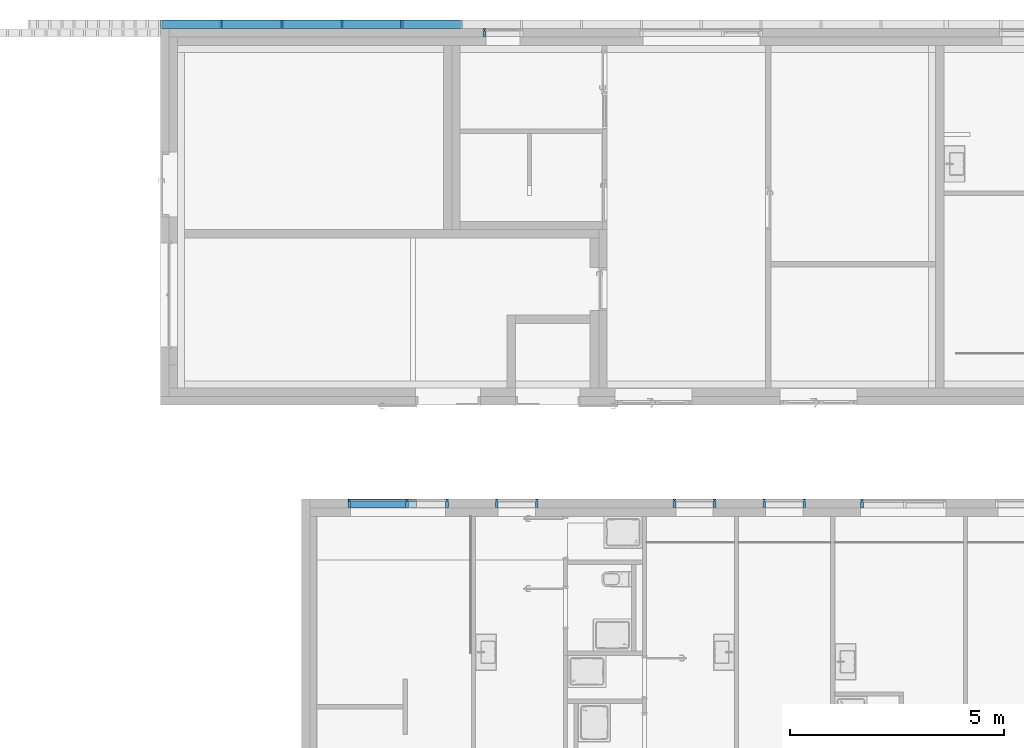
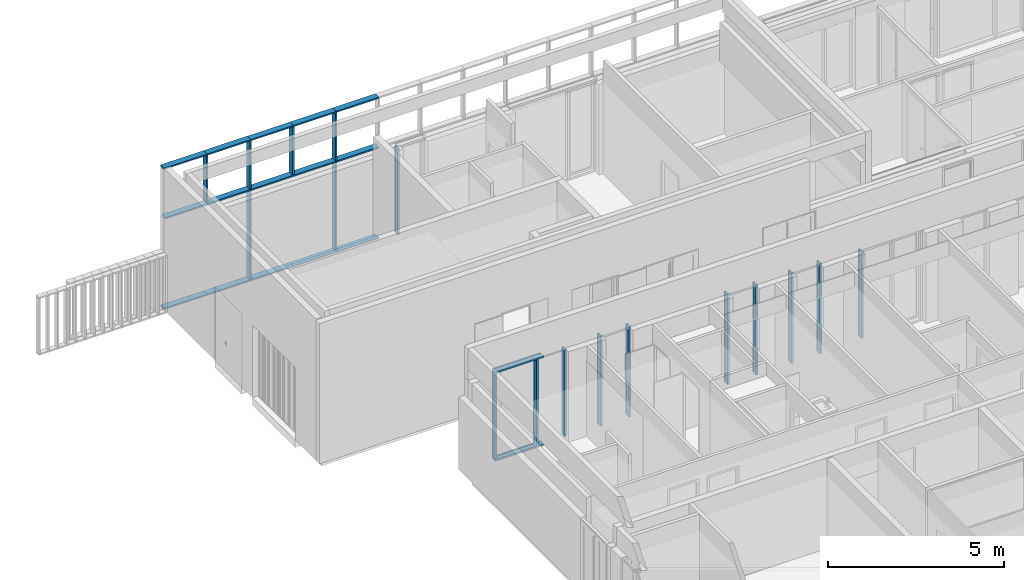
# One storey, part 12 of 240: 34 members, 7 elements without a shape of their own.
"""IFC2X3 building model written with IfcOpenShell, lengths in centimetres."""

from ifc_helpers import new_model, entity, si_unit, converted_unit, derived_unit, direction, frame, origin, origin_2d_with_axis, place, context, subcontext, project, spatial, polyline, rectangle, outline, extrude, source, transform, mapped, material, type_object, type_shapes, element, aggregate, save


model = new_model("IFC2X3")

# Units and contexts
model_context = context("Model", 3, precision=0.001, world=origin(), true_north=direction((6.12303176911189e-17, 1.0)))
body_context = subcontext(model_context, "Body", "Model", "MODEL_VIEW")
ifc_project = project(units=[si_unit("LENGTHUNIT", "METRE", prefix="CENTI"), si_unit("AREAUNIT", "SQUARE_METRE"), si_unit("VOLUMEUNIT", "CUBIC_METRE"), converted_unit("PLANEANGLEUNIT", "DEGREE", entity("IfcRatioMeasure", 0.0174532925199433), si_unit("PLANEANGLEUNIT", "RADIAN"), dimensions=[0, 0, 0, 0, 0, 0, 0]), si_unit("MASSUNIT", "GRAM", prefix="KILO"), derived_unit("MASSDENSITYUNIT", [(si_unit("MASSUNIT", "GRAM", prefix="KILO"), 1), (si_unit("LENGTHUNIT", "METRE"), -3)]), si_unit("TIMEUNIT", "SECOND"), si_unit("FREQUENCYUNIT", "HERTZ"), si_unit("THERMODYNAMICTEMPERATUREUNIT", "DEGREE_CELSIUS"), derived_unit("THERMALTRANSMITTANCEUNIT", [(si_unit("MASSUNIT", "GRAM", prefix="KILO"), 1), (si_unit("THERMODYNAMICTEMPERATUREUNIT", "KELVIN"), -1), (si_unit("TIMEUNIT", "SECOND"), -3)]), derived_unit("VOLUMETRICFLOWRATEUNIT", [(si_unit("LENGTHUNIT", "METRE"), 3), (si_unit("TIMEUNIT", "SECOND"), -1)]), si_unit("ELECTRICCURRENTUNIT", "AMPERE"), si_unit("ELECTRICVOLTAGEUNIT", "VOLT"), si_unit("POWERUNIT", "WATT"), si_unit("FORCEUNIT", "NEWTON", prefix="KILO"), si_unit("ILLUMINANCEUNIT", "LUX"), si_unit("LUMINOUSFLUXUNIT", "LUMEN"), si_unit("LUMINOUSINTENSITYUNIT", "CANDELA"), derived_unit("USERDEFINED", [(si_unit("MASSUNIT", "GRAM", prefix="KILO"), -1), (si_unit("LENGTHUNIT", "METRE"), -2), (si_unit("TIMEUNIT", "SECOND"), 3), (si_unit("LUMINOUSFLUXUNIT", "LUMEN"), 1)]), derived_unit("LINEARVELOCITYUNIT", [(si_unit("LENGTHUNIT", "METRE"), 1), (si_unit("TIMEUNIT", "SECOND"), -1)]), si_unit("PRESSUREUNIT", "PASCAL"), derived_unit("USERDEFINED", [(si_unit("LENGTHUNIT", "METRE"), -2), (si_unit("MASSUNIT", "GRAM", prefix="KILO"), 1), (si_unit("TIMEUNIT", "SECOND"), -2)])], contexts=[model_context])

# Site, building, storey
site_placement = place(None, frame((-2781.94577612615, 7442.24238424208, 0.0)))
site = spatial("IfcSite", under=ifc_project, at=site_placement, Name="Default", CompositionType="ELEMENT")
building_placement = place(site_placement, origin())
building = spatial("IfcBuilding", under=site, at=building_placement, CompositionType="ELEMENT")
storey_placement = place(building_placement, origin())
storey = spatial("IfcBuildingStorey", under=building, at=storey_placement, Name="N00 - COO", CompositionType="ELEMENT", Elevation=0.0)

# Curtain wall, member
curtain_wall_type_1 = type_object("IfcCurtainWallType", Name="Mur-rideau:07 - mur rideau trame 160cm", PredefinedType="NOTDEFINED")
curtain_wall_1_placement = place(building_placement, origin())
curtain_wall_1 = element("IfcCurtainWall", 1, at=curtain_wall_1_placement, inside=storey, type_object=curtain_wall_type_1, Name="Mur-rideau:07 - mur rideau trame 160cm", ObjectType="Mur-rideau:07 - mur rideau trame 160cm")
ifc_material = material(Name="Aluminium")
member_type_1 = type_object("IfcMemberType", Name="150 x 25mm Détails", PredefinedType="MEMBER")
shared_shape_1 = source(origin(), body_context, "Body", "SweptSolid", [
    extrude(outline(polyline([(-13.3333333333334, -3.24999999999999), (0.166666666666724, -3.24999999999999), (0.166666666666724, -0.868749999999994), (3.66666666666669, -0.868749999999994), (3.66666666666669, -3.25), (5.6666666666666, -3.25), (5.6666666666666, 3.24999999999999), (3.66666666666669, 3.24999999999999), (3.66666666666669, 0.86874999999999), (0.166666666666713, 0.86874999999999), (0.166666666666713, 3.25000000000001), (-13.3333333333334, 3.25000000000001), (-13.3333333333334, -3.24999999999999)])), frame((-3.24999999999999, 1.96666666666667, -299.5), z_axis=(0.0, 0.0, 1.0), x_axis=(0.0, -1.0, 0.0)), (0.0, 0.0, 1.0), 299.5),
])
type_shapes(member_type_1, [shared_shape_1])
member_1_placement = place(building_placement, frame((-10564.4998776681, -1073.69999990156, 306.0), z_axis=(0.0, 0.0, 1.0), x_axis=(-1.0, 0.0, 0.0)))
member_1 = element("IfcMember", 2, at=member_1_placement, type_object=member_type_1, material=ifc_material, Name="Meneau rectangulaire:150 x 25mm Détails", ObjectType="Meneau rectangulaire:150 x 25mm Détails", context=body_context, shape_type="MappedRepresentation", body=[
    mapped(shared_shape_1, transform((0.0, 0.0, 0.0), scale=1.0)),
])

curtain_wall_type_2 = type_object("IfcCurtainWallType", Name="Mur-rideau:07 - mur rideau trame 100cm", PredefinedType="NOTDEFINED")
curtain_wall_2_placement = place(building_placement, origin())
curtain_wall_2 = element("IfcCurtainWall", 3, at=curtain_wall_2_placement, inside=storey, type_object=curtain_wall_type_2, Name="Mur-rideau:07 - mur rideau trame 100cm", ObjectType="Mur-rideau:07 - mur rideau trame 100cm")
member_2_placement = place(building_placement, frame((-9594.49987766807, -1074.89999990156, 306.0), z_axis=(0.0, 0.0, 1.0), x_axis=(-1.0, 0.0, 0.0)))
member_2 = element("IfcMember", 4, at=member_2_placement, type_object=member_type_1, material=ifc_material, Name="Meneau rectangulaire:150 x 25mm Détails", ObjectType="Meneau rectangulaire:150 x 25mm Détails", context=body_context, shape_type="MappedRepresentation", body=[
    mapped(shared_shape_1, transform((0.0, 0.0, 0.0), scale=1.0)),
])
aggregate(curtain_wall_2, [member_2])

# Member
member_type_2 = type_object("IfcMemberType", Name="150 x 25mm Détails", PredefinedType="MEMBER")
shared_shape_2 = source(origin(), body_context, "Body", "SweptSolid", [
    extrude(outline(polyline([(-13.3333333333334, -3.25000000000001), (0.166666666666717, -3.25000000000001), (0.166666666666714, -0.86874999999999), (3.66666666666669, -0.86874999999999), (3.66666666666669, -3.24999999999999), (5.6666666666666, -3.24999999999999), (5.6666666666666, 3.25), (3.66666666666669, 3.25), (3.66666666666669, 0.868749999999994), (0.166666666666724, 0.868749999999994), (0.166666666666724, 3.25000000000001), (-13.3333333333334, 3.24999999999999), (-13.3333333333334, -3.25000000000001)])), frame((-3.24999999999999, 1.96666666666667, -299.5), z_axis=(0.0, 0.0, 1.0), x_axis=(0.0, -1.0, 0.0)), (0.0, 0.0, 1.0), 299.5),
])
type_shapes(member_type_2, [shared_shape_2])
member_3_placement = place(building_placement, frame((-10651.4998776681, -1073.69999990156, 6.49999999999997), z_axis=(0.0, 0.0, -1.0), x_axis=(1.0, 0.0, 0.0)))
member_3 = element("IfcMember", 5, at=member_3_placement, type_object=member_type_2, material=ifc_material, Name="Meneau rectangulaire:150 x 25mm Détails", ObjectType="Meneau rectangulaire:150 x 25mm Détails", context=body_context, shape_type="MappedRepresentation", body=[
    mapped(shared_shape_2, transform((0.0, 0.0, 0.0), scale=1.0)),
])

# Curtain wall, member
curtain_wall_type_3 = type_object("IfcCurtainWallType", Name="Mur-rideau:07 - mur rideau trame 90 cm", PredefinedType="NOTDEFINED")
curtain_wall_3_placement = place(storey_placement, origin())
curtain_wall_3 = element("IfcCurtainWall", 6, at=curtain_wall_3_placement, inside=storey, type_object=curtain_wall_type_3, Name="Mur-rideau:07 - mur rideau trame 90 cm", ObjectType="Mur-rideau:07 - mur rideau trame 90 cm")
member_type_3 = type_object("IfcMemberType", Name="150 x 25mm Détails", PredefinedType="MEMBER")
shared_shape_3 = source(origin(), body_context, "Body", "SweptSolid", [
    extrude(outline(polyline([(-13.3333333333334, -3.24999999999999), (0.166666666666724, -3.24999999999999), (0.166666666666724, -0.868749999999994), (3.66666666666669, -0.868749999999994), (3.66666666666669, -3.25), (5.6666666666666, -3.25), (5.6666666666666, 3.24999999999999), (3.66666666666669, 3.24999999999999), (3.66666666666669, 0.86874999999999), (0.166666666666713, 0.86874999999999), (0.166666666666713, 3.25000000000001), (-13.3333333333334, 3.25000000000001), (-13.3333333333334, -3.24999999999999)])), frame((-3.24999999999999, 1.96666666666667, -300.0), z_axis=(0.0, 0.0, 1.0), x_axis=(0.0, -1.0, 0.0)), (0.0, 0.0, 1.0), 300.000000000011),
])
type_shapes(member_type_3, [shared_shape_3])
member_4_placement = place(storey_placement, frame((-10476.9998776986, 26.2000000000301, 306.5), z_axis=(0.0, 0.0, 1.0), x_axis=(-1.0, 0.0, 0.0)))
member_4 = element("IfcMember", 7, at=member_4_placement, type_object=member_type_3, material=ifc_material, Name="Meneau rectangulaire:150 x 25mm Détails", ObjectType="Meneau rectangulaire:150 x 25mm Détails", context=body_context, shape_type="MappedRepresentation", body=[
    mapped(shared_shape_3, transform((0.0, 0.0, 0.0), scale=1.0)),
])
aggregate(curtain_wall_3, [member_4])

# Curtain wall, members
curtain_wall_type_4 = type_object("IfcCurtainWallType", Name="Mur-rideau:Epines - 200x50mm", PredefinedType="NOTDEFINED")
curtain_wall_4_placement = place(building_placement, origin())
curtain_wall_4 = element("IfcCurtainWall", 8, at=curtain_wall_4_placement, inside=storey, type_object=curtain_wall_type_4, Name="Mur-rideau:Epines - 200x50mm", ObjectType="Mur-rideau:Epines - 200x50mm")
member_type_4 = type_object("IfcMemberType", Name="200x50 mm", PredefinedType="MEMBER")
shared_shape_4 = source(origin(), body_context, "Body", "SweptSolid", [
    extrude(rectangle(XDim=20.0, YDim=5.0, at=origin_2d_with_axis()), frame((-2.5, 0.0, -141.830909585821), z_axis=(0.0, 0.0, 1.0), x_axis=(0.0, -1.0, 0.0)), (0.0, 0.0, 1.0), 141.830909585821),
])
type_shapes(member_type_4, [shared_shape_4])
member_5_placement = place(building_placement, frame((-11230.6616968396, 40.0, 0.0), z_axis=(-1.0, 0.0, 0.0), x_axis=(0.0, 0.0, -1.0)))
member_5 = element("IfcMember", 9, at=member_5_placement, type_object=member_type_4, material=ifc_material, Name="Meneau rectangulaire:200x50 mm", ObjectType="Meneau rectangulaire:200x50 mm", context=body_context, shape_type="MappedRepresentation", body=[
    mapped(shared_shape_4, transform((0.0, 0.0, 0.0), scale=1.0)),
])
member_type_5 = type_object("IfcMemberType", Name="200x50 mm", PredefinedType="MEMBER")
shared_shape_5 = source(origin(), body_context, "Body", "SweptSolid", [
    extrude(rectangle(XDim=20.0, YDim=5.0, at=origin_2d_with_axis()), frame((0.0, 0.0, -136.830909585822), z_axis=(0.0, 0.0, 1.0), x_axis=(0.0, -1.0, 0.0)), (0.0, 0.0, 1.0), 136.830909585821),
])
type_shapes(member_type_5, [shared_shape_5])
member_6_placement = place(building_placement, frame((-11088.8307872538, 40.0, 315.0), z_axis=(1.0, 0.0, 0.0), x_axis=(0.0, 0.0, 1.0)))
member_6 = element("IfcMember", 10, at=member_6_placement, type_object=member_type_5, material=ifc_material, Name="Meneau rectangulaire:200x50 mm", ObjectType="Meneau rectangulaire:200x50 mm", context=body_context, shape_type="MappedRepresentation", body=[
    mapped(shared_shape_5, transform((0.0, 0.0, 0.0), scale=1.0)),
])
member_type_6 = type_object("IfcMemberType", Name="200x50 mm", PredefinedType="MEMBER")
shared_shape_6 = source(origin(), body_context, "Body", "SweptSolid", [
    extrude(rectangle(XDim=20.0, YDim=5.0, at=origin_2d_with_axis()), frame((0.0, 0.0, -307.5), z_axis=(0.0, 0.0, 1.0), x_axis=(0.0, -1.0, 0.0)), (0.0, 0.0, 1.0), 307.5),
])
type_shapes(member_type_6, [shared_shape_6])
member_7_placement = place(building_placement, frame((-10666.9998776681, 40.0, 5.0), z_axis=(0.0, 0.0, -1.0), x_axis=(1.0, 0.0, 0.0)))
member_7 = element("IfcMember", 11, at=member_7_placement, type_object=member_type_6, material=ifc_material, Name="Meneau rectangulaire:200x50 mm", ObjectType="Meneau rectangulaire:200x50 mm", context=body_context, shape_type="MappedRepresentation", body=[
    mapped(shared_shape_6, transform((0.0, 0.0, 0.0), scale=1.0)),
])
member_8_placement = place(building_placement, frame((-10946.9998776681, 40.0, 5.0), z_axis=(0.0, 0.0, -1.0), x_axis=(1.0, 0.0, 0.0)))
member_8 = element("IfcMember", 12, at=member_8_placement, type_object=member_type_6, material=ifc_material, Name="Meneau rectangulaire:200x50 mm", ObjectType="Meneau rectangulaire:200x50 mm", context=body_context, shape_type="MappedRepresentation", body=[
    mapped(shared_shape_6, transform((0.0, 0.0, 0.0), scale=1.0)),
])
member_type_7 = type_object("IfcMemberType", Name="200x50 mm", PredefinedType="MEMBER")
shared_shape_7 = source(origin(), body_context, "Body", "SweptSolid", [
    extrude(rectangle(XDim=20.0, YDim=5.0, at=origin_2d_with_axis()), frame((-2.5, 0.0, -140.0), z_axis=(0.0, 0.0, 1.0), x_axis=(0.0, -1.0, 0.0)), (0.0, 0.0, 1.0), 139.999999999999),
])
type_shapes(member_type_7, [shared_shape_7])
member_9_placement = place(building_placement, frame((-10666.9998776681, 40.0, 0.0), z_axis=(-1.0, 0.0, 0.0), x_axis=(0.0, 0.0, -1.0)))
member_9 = element("IfcMember", 13, at=member_9_placement, type_object=member_type_7, material=ifc_material, Name="Meneau rectangulaire:200x50 mm", ObjectType="Meneau rectangulaire:200x50 mm", context=body_context, shape_type="MappedRepresentation", body=[
    mapped(shared_shape_7, transform((0.0, 0.0, 0.0), scale=1.0)),
])
member_10_placement = place(building_placement, frame((-10946.9998776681, 40.0, 0.0), z_axis=(-1.0, 0.0, 0.0), x_axis=(0.0, 0.0, -1.0)))
member_10 = element("IfcMember", 14, at=member_10_placement, type_object=member_type_7, material=ifc_material, Name="Meneau rectangulaire:200x50 mm", ObjectType="Meneau rectangulaire:200x50 mm", context=body_context, shape_type="MappedRepresentation", body=[
    mapped(shared_shape_7, transform((0.0, 0.0, 0.0), scale=1.0)),
])
member_type_8 = type_object("IfcMemberType", Name="200x50 mm", PredefinedType="MEMBER")
shared_shape_8 = source(origin(), body_context, "Body", "SweptSolid", [
    extrude(rectangle(XDim=20.0, YDim=5.0, at=origin_2d_with_axis()), frame((0.0, 0.0, -140.0), z_axis=(0.0, 0.0, 1.0), x_axis=(0.0, -1.0, 0.0)), (0.0, 0.0, 1.0), 139.999999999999),
])
type_shapes(member_type_8, [shared_shape_8])
member_11_placement = place(building_placement, frame((-10526.9998776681, 40.0, 315.0), z_axis=(1.0, 0.0, 0.0), x_axis=(0.0, 0.0, 1.0)))
member_11 = element("IfcMember", 15, at=member_11_placement, type_object=member_type_8, material=ifc_material, Name="Meneau rectangulaire:200x50 mm", ObjectType="Meneau rectangulaire:200x50 mm", context=body_context, shape_type="MappedRepresentation", body=[
    mapped(shared_shape_8, transform((0.0, 0.0, 0.0), scale=1.0)),
])
member_12_placement = place(building_placement, frame((-10806.9998776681, 40.0, 315.0), z_axis=(1.0, 0.0, 0.0), x_axis=(0.0, 0.0, 1.0)))
member_12 = element("IfcMember", 16, at=member_12_placement, type_object=member_type_8, material=ifc_material, Name="Meneau rectangulaire:200x50 mm", ObjectType="Meneau rectangulaire:200x50 mm", context=body_context, shape_type="MappedRepresentation", body=[
    mapped(shared_shape_8, transform((0.0, 0.0, 0.0), scale=1.0)),
])
member_13_placement = place(building_placement, frame((-10666.9998776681, 40.0, 315.0), z_axis=(1.0, 0.0, 0.0), x_axis=(0.0, 0.0, 1.0)))
member_13 = element("IfcMember", 17, at=member_13_placement, type_object=member_type_8, material=ifc_material, Name="Meneau rectangulaire:200x50 mm", ObjectType="Meneau rectangulaire:200x50 mm", context=body_context, shape_type="MappedRepresentation", body=[
    mapped(shared_shape_8, transform((0.0, 0.0, 0.0), scale=1.0)),
])
member_type_9 = type_object("IfcMemberType", Name="200x50 mm", PredefinedType="MEMBER")
shared_shape_9 = source(origin(), body_context, "Body", "SweptSolid", [
    extrude(rectangle(XDim=20.0, YDim=5.0, at=origin_2d_with_axis()), frame((-2.5, 0.0, -140.0), z_axis=(0.0, 0.0, 1.0), x_axis=(0.0, -1.0, 0.0)), (0.0, 0.0, 1.0), 140.000000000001),
])
type_shapes(member_type_9, [shared_shape_9])
member_14_placement = place(building_placement, frame((-10666.9998776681, 40.0, 490.0), z_axis=(1.0, 0.0, 0.0), x_axis=(0.0, 0.0, 1.0)))
member_14 = element("IfcMember", 18, at=member_14_placement, type_object=member_type_9, material=ifc_material, Name="Meneau rectangulaire:200x50 mm", ObjectType="Meneau rectangulaire:200x50 mm", context=body_context, shape_type="MappedRepresentation", body=[
    mapped(shared_shape_9, transform((0.0, 0.0, 0.0), scale=1.0)),
])
member_15_placement = place(building_placement, frame((-10526.9998776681, 40.0, 490.0), z_axis=(1.0, 0.0, 0.0), x_axis=(0.0, 0.0, 1.0)))
member_15 = element("IfcMember", 19, at=member_15_placement, type_object=member_type_9, material=ifc_material, Name="Meneau rectangulaire:200x50 mm", ObjectType="Meneau rectangulaire:200x50 mm", context=body_context, shape_type="MappedRepresentation", body=[
    mapped(shared_shape_9, transform((0.0, 0.0, 0.0), scale=1.0)),
])
member_16_placement = place(building_placement, frame((-10806.9998776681, 40.0, 490.0), z_axis=(1.0, 0.0, 0.0), x_axis=(0.0, 0.0, 1.0)))
member_16 = element("IfcMember", 20, at=member_16_placement, type_object=member_type_9, material=ifc_material, Name="Meneau rectangulaire:200x50 mm", ObjectType="Meneau rectangulaire:200x50 mm", context=body_context, shape_type="MappedRepresentation", body=[
    mapped(shared_shape_9, transform((0.0, 0.0, 0.0), scale=1.0)),
])
member_type_10 = type_object("IfcMemberType", Name="200x50 mm", PredefinedType="MEMBER")
shared_shape_10 = source(origin(), body_context, "Body", "SweptSolid", [
    extrude(rectangle(XDim=20.0, YDim=5.0, at=origin_2d_with_axis()), frame((-2.5, 0.0, -141.830909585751), z_axis=(0.0, 0.0, 1.0), x_axis=(0.0, -1.0, 0.0)), (0.0, 0.0, 1.0), 141.83090958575),
])
type_shapes(member_type_10, [shared_shape_10])
member_17_placement = place(building_placement, frame((-10946.9998776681, 40.0, 490.0), z_axis=(1.0, 0.0, 0.0), x_axis=(0.0, 0.0, 1.0)))
member_17 = element("IfcMember", 21, at=member_17_placement, type_object=member_type_10, material=ifc_material, Name="Meneau rectangulaire:200x50 mm", ObjectType="Meneau rectangulaire:200x50 mm", context=body_context, shape_type="MappedRepresentation", body=[
    mapped(shared_shape_10, transform((0.0, 0.0, 0.0), scale=1.0)),
])
member_type_11 = type_object("IfcMemberType", Name="200x50 mm", PredefinedType="MEMBER")
shared_shape_11 = source(origin(), body_context, "Body", "SweptSolid", [
    extrude(rectangle(XDim=20.0, YDim=5.0, at=origin_2d_with_axis()), frame((0.0, 0.0, -167.499999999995), z_axis=(0.0, 0.0, 1.0), x_axis=(0.0, -1.0, 0.0)), (0.0, 0.0, 1.0), 167.499999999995),
])
type_shapes(member_type_11, [shared_shape_11])
member_18_placement = place(building_placement, frame((-10666.9998776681, 40.0, 317.5), z_axis=(0.0, 0.0, -1.0), x_axis=(1.0, 0.0, 0.0)))
member_18 = element("IfcMember", 22, at=member_18_placement, type_object=member_type_11, material=ifc_material, Name="Meneau rectangulaire:200x50 mm", ObjectType="Meneau rectangulaire:200x50 mm", context=body_context, shape_type="MappedRepresentation", body=[
    mapped(shared_shape_11, transform((0.0, 0.0, 0.0), scale=1.0)),
])
member_19_placement = place(building_placement, frame((-10946.9998776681, 40.0, 317.5), z_axis=(0.0, 0.0, -1.0), x_axis=(1.0, 0.0, 0.0)))
member_19 = element("IfcMember", 23, at=member_19_placement, type_object=member_type_11, material=ifc_material, Name="Meneau rectangulaire:200x50 mm", ObjectType="Meneau rectangulaire:200x50 mm", context=body_context, shape_type="MappedRepresentation", body=[
    mapped(shared_shape_11, transform((0.0, 0.0, 0.0), scale=1.0)),
])
member_20_placement = place(building_placement, frame((-11088.8307872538, 40.0, 317.5), z_axis=(0.0, 0.0, -1.0), x_axis=(1.0, 0.0, 0.0)))
member_20 = element("IfcMember", 24, at=member_20_placement, type_object=member_type_11, material=ifc_material, Name="Meneau rectangulaire:200x50 mm", ObjectType="Meneau rectangulaire:200x50 mm", context=body_context, shape_type="MappedRepresentation", body=[
    mapped(shared_shape_11, transform((0.0, 0.0, 0.0), scale=1.0)),
])
member_21_placement = place(building_placement, frame((-10806.9998776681, 40.0, 317.5), z_axis=(0.0, 0.0, -1.0), x_axis=(1.0, 0.0, 0.0)))
member_21 = element("IfcMember", 25, at=member_21_placement, type_object=member_type_11, material=ifc_material, Name="Meneau rectangulaire:200x50 mm", ObjectType="Meneau rectangulaire:200x50 mm", context=body_context, shape_type="MappedRepresentation", body=[
    mapped(shared_shape_11, transform((0.0, 0.0, 0.0), scale=1.0)),
])
member_type_12 = type_object("IfcMemberType", Name="200x50 mm", PredefinedType="MEMBER")
shared_shape_12 = source(origin(), body_context, "Body", "SweptSolid", [
    extrude(rectangle(XDim=20.0, YDim=5.0, at=origin_2d_with_axis()), frame((-2.5, 0.0, -140.0), z_axis=(0.0, 0.0, 1.0), x_axis=(0.0, -1.0, 0.0)), (0.0, 0.0, 1.0), 140.000000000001),
])
type_shapes(member_type_12, [shared_shape_12])
member_22_placement = place(building_placement, frame((-10806.9998776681, 40.0, 0.0), z_axis=(-1.0, 0.0, 0.0), x_axis=(0.0, 0.0, -1.0)))
member_22 = element("IfcMember", 26, at=member_22_placement, type_object=member_type_12, material=ifc_material, Name="Meneau rectangulaire:200x50 mm", ObjectType="Meneau rectangulaire:200x50 mm", context=body_context, shape_type="MappedRepresentation", body=[
    mapped(shared_shape_12, transform((0.0, 0.0, 0.0), scale=1.0)),
])
member_type_13 = type_object("IfcMemberType", Name="200x50 mm", PredefinedType="MEMBER")
shared_shape_13 = source(origin(), body_context, "Body", "SweptSolid", [
    extrude(rectangle(XDim=20.0, YDim=5.0, at=origin_2d_with_axis()), frame((-2.5, 0.0, -141.830909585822), z_axis=(0.0, 0.0, 1.0), x_axis=(0.0, -1.0, 0.0)), (0.0, 0.0, 1.0), 141.830909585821),
])
type_shapes(member_type_13, [shared_shape_13])
member_23_placement = place(building_placement, frame((-11088.8307872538, 40.0, 490.0), z_axis=(1.0, 0.0, 0.0), x_axis=(0.0, 0.0, 1.0)))
member_23 = element("IfcMember", 27, at=member_23_placement, type_object=member_type_13, material=ifc_material, Name="Meneau rectangulaire:200x50 mm", ObjectType="Meneau rectangulaire:200x50 mm", context=body_context, shape_type="MappedRepresentation", body=[
    mapped(shared_shape_13, transform((0.0, 0.0, 0.0), scale=1.0)),
])
member_type_14 = type_object("IfcMemberType", Name="200x50 mm", PredefinedType="MEMBER")
shared_shape_14 = source(origin(), body_context, "Body", "SweptSolid", [
    extrude(rectangle(XDim=20.0, YDim=5.0, at=origin_2d_with_axis()), frame((-2.5, 0.0, -141.83090958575), z_axis=(0.0, 0.0, 1.0), x_axis=(0.0, -1.0, 0.0)), (0.0, 0.0, 1.0), 141.83090958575),
])
type_shapes(member_type_14, [shared_shape_14])
member_24_placement = place(building_placement, frame((-11088.8307872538, 40.0, 0.0), z_axis=(-1.0, 0.0, 0.0), x_axis=(0.0, 0.0, -1.0)))
member_24 = element("IfcMember", 28, at=member_24_placement, type_object=member_type_14, material=ifc_material, Name="Meneau rectangulaire:200x50 mm", ObjectType="Meneau rectangulaire:200x50 mm", context=body_context, shape_type="MappedRepresentation", body=[
    mapped(shared_shape_14, transform((0.0, 0.0, 0.0), scale=1.0)),
])
member_type_15 = type_object("IfcMemberType", Name="200x50 mm", PredefinedType="MEMBER")
shared_shape_15 = source(origin(), body_context, "Body", "SweptSolid", [
    extrude(rectangle(XDim=20.0, YDim=5.0, at=origin_2d_with_axis()), frame((0.0, 0.0, -141.830909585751), z_axis=(0.0, 0.0, 1.0), x_axis=(0.0, -1.0, 0.0)), (0.0, 0.0, 1.0), 141.83090958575),
])
type_shapes(member_type_15, [shared_shape_15])
member_25_placement = place(building_placement, frame((-10946.9998776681, 40.0, 315.0), z_axis=(1.0, 0.0, 0.0), x_axis=(0.0, 0.0, 1.0)))
member_25 = element("IfcMember", 29, at=member_25_placement, type_object=member_type_15, material=ifc_material, Name="Meneau rectangulaire:200x50 mm", ObjectType="Meneau rectangulaire:200x50 mm", context=body_context, shape_type="MappedRepresentation", body=[
    mapped(shared_shape_15, transform((0.0, 0.0, 0.0), scale=1.0)),
])
aggregate(curtain_wall_4, [member_5, member_6, member_9, member_11, member_14, member_10, member_12, member_17, member_7, member_8, member_18, member_19, member_15, member_16, member_22, member_13, member_23, member_24, member_25, member_20, member_21])

# Member
member_type_16 = type_object("IfcMemberType", Name="150 x 25mm Détails", PredefinedType="MEMBER")
shared_shape_16 = source(origin(), body_context, "Body", "SweptSolid", [
    extrude(outline(polyline([(-13.3333333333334, -3.24999999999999), (0.166666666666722, -3.24999999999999), (0.166666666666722, -0.868749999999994), (3.66666666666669, -0.868749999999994), (3.66666666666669, -3.25), (5.66666666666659, -3.25), (5.66666666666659, 3.24999999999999), (3.66666666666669, 3.24999999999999), (3.66666666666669, 0.86874999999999), (0.166666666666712, 0.86874999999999), (0.166666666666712, 3.25000000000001), (-13.3333333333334, 3.25000000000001), (-13.3333333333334, -3.24999999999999)])), frame((-3.24999999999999, 1.96666666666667, -298.0), z_axis=(0.0, 0.0, 1.0), x_axis=(0.0, -1.0, 0.0)), (0.0, 0.0, 1.0), 298.0),
])
type_shapes(member_type_16, [shared_shape_16])
member_26_placement = place(building_placement, frame((-10792.8811276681, -1073.69999990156, 304.499999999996), z_axis=(0.0, 0.0, 1.0), x_axis=(-1.0, 0.0, 0.0)))
member_26 = element("IfcMember", 30, at=member_26_placement, type_object=member_type_16, material=ifc_material, Name="Meneau rectangulaire:150 x 25mm Détails", ObjectType="Meneau rectangulaire:150 x 25mm Détails", context=body_context, shape_type="MappedRepresentation", body=[
    mapped(shared_shape_16, transform((0.0, 0.0, 0.0), scale=1.0)),
])

member_type_17 = type_object("IfcMemberType", Name="150 x 25mm Détails", PredefinedType="MEMBER")
shared_shape_17 = source(origin(), body_context, "Body", "SweptSolid", [
    extrude(outline(polyline([(-13.3333333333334, -3.25000000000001), (0.166666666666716, -3.25000000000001), (0.166666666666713, -0.86874999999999), (3.66666666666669, -0.86874999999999), (3.66666666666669, -3.24999999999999), (5.66666666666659, -3.24999999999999), (5.66666666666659, 3.25), (3.66666666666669, 3.25), (3.66666666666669, 0.868749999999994), (0.166666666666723, 0.868749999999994), (0.166666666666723, 3.25000000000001), (-13.3333333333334, 3.24999999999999), (-13.3333333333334, -3.25000000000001)])), frame((-3.24999999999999, 1.96666666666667, -160.0), z_axis=(0.0, 0.0, 1.0), x_axis=(0.0, -1.0, 0.0)), (0.0, 0.0, 1.0), 160.00000003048),
])
type_shapes(member_type_17, [shared_shape_17])
member_27_placement = place(building_placement, frame((-10632.8811276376, -1073.69999990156, 311.0), z_axis=(1.0, 0.0, 0.0), x_axis=(0.0, 0.0, 1.0)))
member_27 = element("IfcMember", 31, at=member_27_placement, type_object=member_type_17, material=ifc_material, Name="Meneau rectangulaire:150 x 25mm Détails", ObjectType="Meneau rectangulaire:150 x 25mm Détails", context=body_context, shape_type="MappedRepresentation", body=[
    mapped(shared_shape_17, transform((0.0, 0.0, 0.0), scale=1.0)),
])

member_type_18 = type_object("IfcMemberType", Name="150 x 25mm Détails", PredefinedType="MEMBER")
shared_shape_18 = source(origin(), body_context, "Body", "SweptSolid", [
    extrude(outline(polyline([(-13.3333333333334, -3.24999999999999), (0.166666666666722, -3.24999999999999), (0.166666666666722, -0.868749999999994), (3.66666666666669, -0.868749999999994), (3.66666666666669, -3.25), (5.66666666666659, -3.25), (5.66666666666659, 3.24999999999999), (3.66666666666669, 3.24999999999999), (3.66666666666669, 0.86874999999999), (0.166666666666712, 0.86874999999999), (0.166666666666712, 3.25000000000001), (-13.3333333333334, 3.25000000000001), (-13.3333333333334, -3.24999999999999)])), frame((-3.24999999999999, 1.96666666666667, -160.0), z_axis=(0.0, 0.0, 1.0), x_axis=(0.0, -1.0, 0.0)), (0.0, 0.0, 1.0), 160.00000003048),
])
type_shapes(member_type_18, [shared_shape_18])
member_28_placement = place(building_placement, frame((-10792.8811276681, -1073.69999990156, 0.0), z_axis=(-1.0, 0.0, 0.0), x_axis=(0.0, 0.0, -1.0)))
member_28 = element("IfcMember", 32, at=member_28_placement, type_object=member_type_18, material=ifc_material, Name="Meneau rectangulaire:150 x 25mm Détails", ObjectType="Meneau rectangulaire:150 x 25mm Détails", context=body_context, shape_type="MappedRepresentation", body=[
    mapped(shared_shape_18, transform((0.0, 0.0, 0.0), scale=1.0)),
])

aggregate(curtain_wall_1, [member_26, member_27, member_3, member_1, member_28])

# Curtain wall, member
curtain_wall_5_placement = place(storey_placement, origin())
curtain_wall_5 = element("IfcCurtainWall", 33, at=curtain_wall_5_placement, inside=storey, type_object=curtain_wall_type_2, Name="Mur-rideau:07 - mur rideau trame 100cm", ObjectType="Mur-rideau:07 - mur rideau trame 100cm")
member_type_19 = type_object("IfcMemberType", Name="150 x 25mm Détails", PredefinedType="MEMBER")
shared_shape_19 = source(origin(), body_context, "Body", "SweptSolid", [
    extrude(outline(polyline([(-13.3333333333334, -3.25000000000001), (0.166666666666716, -3.25000000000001), (0.166666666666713, -0.86874999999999), (3.66666666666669, -0.86874999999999), (3.66666666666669, -3.24999999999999), (5.66666666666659, -3.24999999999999), (5.66666666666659, 3.25), (3.66666666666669, 3.25), (3.66666666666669, 0.868749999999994), (0.166666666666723, 0.868749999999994), (0.166666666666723, 3.25000000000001), (-13.3333333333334, 3.24999999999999), (-13.3333333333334, -3.25000000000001)])), frame((-3.24999999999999, 1.96666666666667, -312.5), z_axis=(0.0, 0.0, 1.0), x_axis=(0.0, -1.0, 0.0)), (0.0, 0.0, 1.0), 312.5),
])
type_shapes(member_type_19, [shared_shape_19])
member_29_placement = place(storey_placement, frame((-9722.99987766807, -1073.69999990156, 0.0), z_axis=(0.0, 0.0, -1.0), x_axis=(1.0, 0.0, 0.0)))
member_29 = element("IfcMember", 34, at=member_29_placement, type_object=member_type_19, material=ifc_material, Name="Meneau rectangulaire:150 x 25mm Détails", ObjectType="Meneau rectangulaire:150 x 25mm Détails", context=body_context, shape_type="MappedRepresentation", body=[
    mapped(shared_shape_19, transform((0.0, 0.0, 0.0), scale=1.0)),
])

curtain_wall_6_placement = place(storey_placement, origin())
curtain_wall_6 = element("IfcCurtainWall", 35, at=curtain_wall_6_placement, inside=storey, type_object=curtain_wall_type_2, Name="Mur-rideau:07 - mur rideau trame 100cm", ObjectType="Mur-rideau:07 - mur rideau trame 100cm")
member_30_placement = place(storey_placement, frame((-9932.99987766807, -1073.69999990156, 0.0), z_axis=(0.0, 0.0, -1.0), x_axis=(1.0, 0.0, 0.0)))
member_30 = element("IfcMember", 36, at=member_30_placement, type_object=member_type_19, material=ifc_material, Name="Meneau rectangulaire:150 x 25mm Détails", ObjectType="Meneau rectangulaire:150 x 25mm Détails", context=body_context, shape_type="MappedRepresentation", body=[
    mapped(shared_shape_19, transform((0.0, 0.0, 0.0), scale=1.0)),
])

curtain_wall_7_placement = place(storey_placement, origin())
curtain_wall_7 = element("IfcCurtainWall", 37, at=curtain_wall_7_placement, inside=storey, type_object=curtain_wall_type_2, Name="Mur-rideau:07 - mur rideau trame 100cm", ObjectType="Mur-rideau:07 - mur rideau trame 100cm")
member_31_placement = place(storey_placement, frame((-10347.9998776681, -1073.69999990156, 0.0), z_axis=(0.0, 0.0, -1.0), x_axis=(1.0, 0.0, 0.0)))
member_31 = element("IfcMember", 38, at=member_31_placement, type_object=member_type_19, material=ifc_material, Name="Meneau rectangulaire:150 x 25mm Détails", ObjectType="Meneau rectangulaire:150 x 25mm Détails", context=body_context, shape_type="MappedRepresentation", body=[
    mapped(shared_shape_19, transform((0.0, 0.0, 0.0), scale=1.0)),
])

# Member
member_type_20 = type_object("IfcMemberType", Name="150 x 25mm Détails", PredefinedType="MEMBER")
shared_shape_20 = source(origin(), body_context, "Body", "SweptSolid", [
    extrude(outline(polyline([(-13.3333333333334, -3.24999999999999), (0.166666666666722, -3.24999999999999), (0.166666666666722, -0.868749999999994), (3.66666666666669, -0.868749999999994), (3.66666666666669, -3.25), (5.66666666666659, -3.25), (5.66666666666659, 3.24999999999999), (3.66666666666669, 3.24999999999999), (3.66666666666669, 0.86874999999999), (0.166666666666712, 0.86874999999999), (0.166666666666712, 3.25000000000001), (-13.3333333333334, 3.25000000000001), (-13.3333333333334, -3.24999999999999)])), frame((-3.24999999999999, 1.96666666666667, -312.5), z_axis=(0.0, 0.0, 1.0), x_axis=(0.0, -1.0, 0.0)), (0.0, 0.0, 1.0), 312.5),
])
type_shapes(member_type_20, [shared_shape_20])
member_32_placement = place(storey_placement, frame((-9822.99987766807, -1073.69999990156, 312.5), z_axis=(0.0, 0.0, 1.0), x_axis=(-1.0, 0.0, 0.0)))
member_32 = element("IfcMember", 39, at=member_32_placement, type_object=member_type_20, material=ifc_material, Name="Meneau rectangulaire:150 x 25mm Détails", ObjectType="Meneau rectangulaire:150 x 25mm Détails", context=body_context, shape_type="MappedRepresentation", body=[
    mapped(shared_shape_20, transform((0.0, 0.0, 0.0), scale=1.0)),
])

aggregate(curtain_wall_5, [member_29, member_32])

member_33_placement = place(storey_placement, frame((-10032.9998776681, -1073.69999990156, 312.5), z_axis=(0.0, 0.0, 1.0), x_axis=(-1.0, 0.0, 0.0)))
member_33 = element("IfcMember", 40, at=member_33_placement, type_object=member_type_20, material=ifc_material, Name="Meneau rectangulaire:150 x 25mm Détails", ObjectType="Meneau rectangulaire:150 x 25mm Détails", context=body_context, shape_type="MappedRepresentation", body=[
    mapped(shared_shape_20, transform((0.0, 0.0, 0.0), scale=1.0)),
])

aggregate(curtain_wall_6, [member_30, member_33])

member_34_placement = place(storey_placement, frame((-10447.9998776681, -1073.69999990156, 312.5), z_axis=(0.0, 0.0, 1.0), x_axis=(-1.0, 0.0, 0.0)))
member_34 = element("IfcMember", 41, at=member_34_placement, type_object=member_type_20, material=ifc_material, Name="Meneau rectangulaire:150 x 25mm Détails", ObjectType="Meneau rectangulaire:150 x 25mm Détails", context=body_context, shape_type="MappedRepresentation", body=[
    mapped(shared_shape_20, transform((0.0, 0.0, 0.0), scale=1.0)),
])

aggregate(curtain_wall_7, [member_31, member_34])

save(model, "model.ifc")
